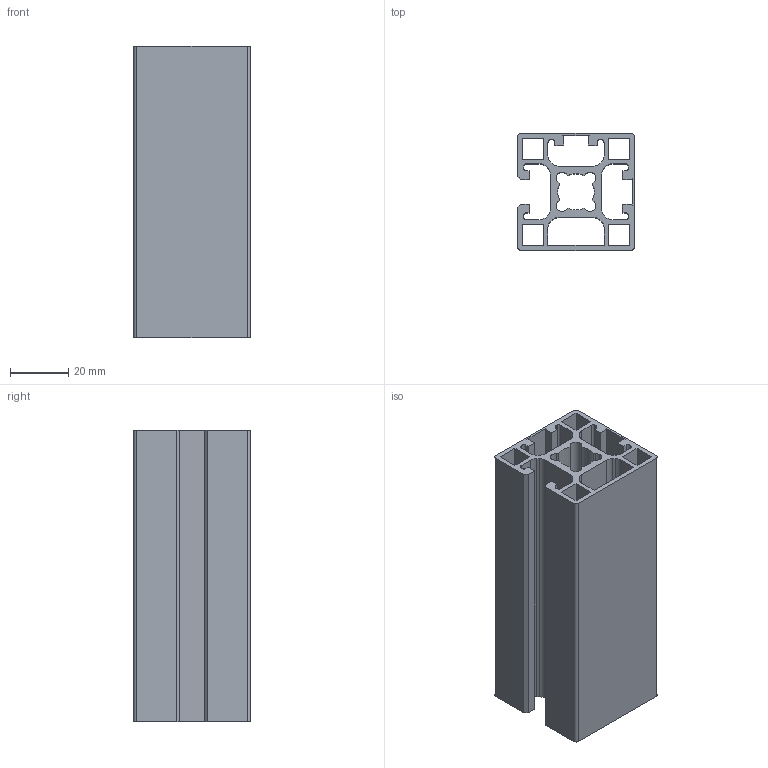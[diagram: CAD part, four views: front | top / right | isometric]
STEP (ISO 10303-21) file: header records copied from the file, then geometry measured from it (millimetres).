
FILE_DESCRIPTION((''),'2;1');
FILE_NAME('C:\Users\de2afr0\Desktop\New folder (2)\J9242116100.stp','2014-03-25T16:05:58',('de2afr0'),(''),'Autodesk Inventor 2011','Autodesk Inventor 2011','');
FILE_SCHEMA(('AUTOMOTIVE_DESIGN { 1 0 10303 214 1 1 1 1 }'));
Length unit declared in the file: millimetre
Products named in the file (1): MB01159101
Bounding box: 40 x 40 x 100 mm (x, y, z)
Volume: 54247.4 mm3; surface area: 56578 mm2
Topology: 1 solids, 1 shells, 124 faces, 366 edges, 244 vertices
Faces by surface type: plane 84, cylinder 40
Entity records: 4188 total; most frequent: CARTESIAN_POINT 735, ORIENTED_EDGE 732, DIRECTION 696, EDGE_CURVE 366, VECTOR 286, LINE 286, VERTEX_POINT 244, AXIS2_PLACEMENT_3D 205
